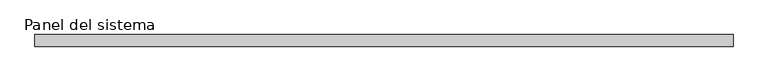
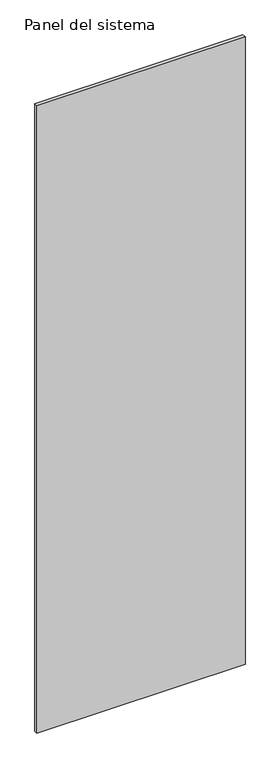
"""IFC4 building model written with IfcOpenShell, lengths in millimetres: plate geometry, Panel del sistema : HIANSA - CHAPA PERFILADA CUBIERTA - MO18."""

from ifc_helpers import new_model, si_unit, origin, origin_with_axes, place, context, project, spatial, polyline, outline, extrude, source, transform, mapped, element, save


def panel_del_sistema_6a82baca(model_context):
    return source(origin(), model_context, "Body", "SweptSolid", [
        extrude(outline(polyline([(532.0000002, 0.0), (-532.0000002, 0.0), (-532.0000002, 18.0), (532.0000002, 18.0), (532.0000002, 0.0)])), origin_with_axes(), (0.0, 0.0, 1.0), 3390.8509027),
    ])


if __name__ == "__main__":
    model = new_model("IFC4")
    model_context = context("Model", 3, world=origin())
    ifc_project = project(units=[si_unit("LENGTHUNIT", "METRE", prefix="MILLI")], contexts=[model_context])
    site = spatial("IfcSite", under=ifc_project)
    building = spatial("IfcBuilding", under=site)
    placement = place(None, origin())
    panel_del_sistema_shape = panel_del_sistema_6a82baca(model_context)
    element("IfcPlate", 1, ObjectType="Panel del sistema : HIANSA - CHAPA PERFILADA CUBIERTA - MO18", at=placement, inside=building, context=model_context, shape_type="MappedRepresentation", body=[
        mapped(panel_del_sistema_shape, transform((0.0, 0.0, 0.0), x_axis=(1.0, 0.0, 0.0), y_axis=(0.0, 1.0, 0.0), z_axis=(0.0, 0.0, 1.0))),
    ])
    save(model, "model.ifc")
